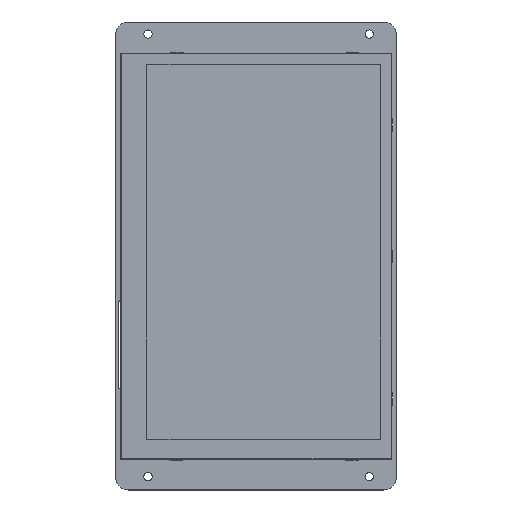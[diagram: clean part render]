
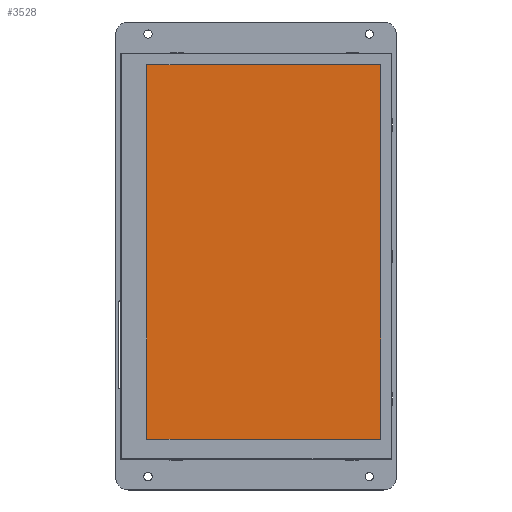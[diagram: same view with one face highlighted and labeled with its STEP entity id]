
A CAD part, top view. The second image highlights one B-rep face of the part: STEP entity #3528.
In plain terms, the highlighted planar face has unit normal (0, 0, 1).
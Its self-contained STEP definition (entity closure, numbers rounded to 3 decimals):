
#711=DIRECTION('',(1.,0.,0.));
#712=VECTOR('',#711,93.4);
#713=CARTESIAN_POINT('',(-44.652,-73.414,9.55));
#714=LINE('',#713,#712);
#719=DIRECTION('',(0.,-1.,0.));
#720=VECTOR('',#719,149.56);
#721=CARTESIAN_POINT('',(-44.652,76.146,9.55));
#722=LINE('',#721,#720);
#727=DIRECTION('',(-1.,0.,0.));
#728=VECTOR('',#727,93.4);
#729=CARTESIAN_POINT('',(48.748,76.146,9.55));
#730=LINE('',#729,#728);
#735=DIRECTION('',(0.,1.,0.));
#736=VECTOR('',#735,149.56);
#737=CARTESIAN_POINT('',(48.748,-73.414,9.55));
#738=LINE('',#737,#736);
#2399=CARTESIAN_POINT('',(-44.652,-73.414,9.55));
#2400=VERTEX_POINT('',#2399);
#2401=CARTESIAN_POINT('',(48.748,-73.414,9.55));
#2402=VERTEX_POINT('',#2401);
#2403=CARTESIAN_POINT('',(-44.652,76.146,9.55));
#2404=VERTEX_POINT('',#2403);
#2405=CARTESIAN_POINT('',(48.748,76.146,9.55));
#2406=VERTEX_POINT('',#2405);
#3517=CARTESIAN_POINT('',(2.048,1.366,9.55));
#3518=DIRECTION('',(0.,0.,1.));
#3519=DIRECTION('',(0.,-1.,0.));
#3520=AXIS2_PLACEMENT_3D('',#3517,#3518,#3519);
#3521=PLANE('',#3520);
#3522=ORIENTED_EDGE('',*,*,#3469,.F.);
#3523=ORIENTED_EDGE('',*,*,#3484,.F.);
#3524=ORIENTED_EDGE('',*,*,#3498,.F.);
#3525=ORIENTED_EDGE('',*,*,#3511,.F.);
#3526=EDGE_LOOP('',(#3522,#3523,#3524,#3525));
#3527=FACE_OUTER_BOUND('',#3526,.F.);
#3469=EDGE_CURVE('',#2400,#2402,#714,.T.);
#3484=EDGE_CURVE('',#2404,#2400,#722,.T.);
#3498=EDGE_CURVE('',#2406,#2404,#730,.T.);
#3511=EDGE_CURVE('',#2402,#2406,#738,.T.);
#3528=ADVANCED_FACE('',(#3527),#3521,.T.);
